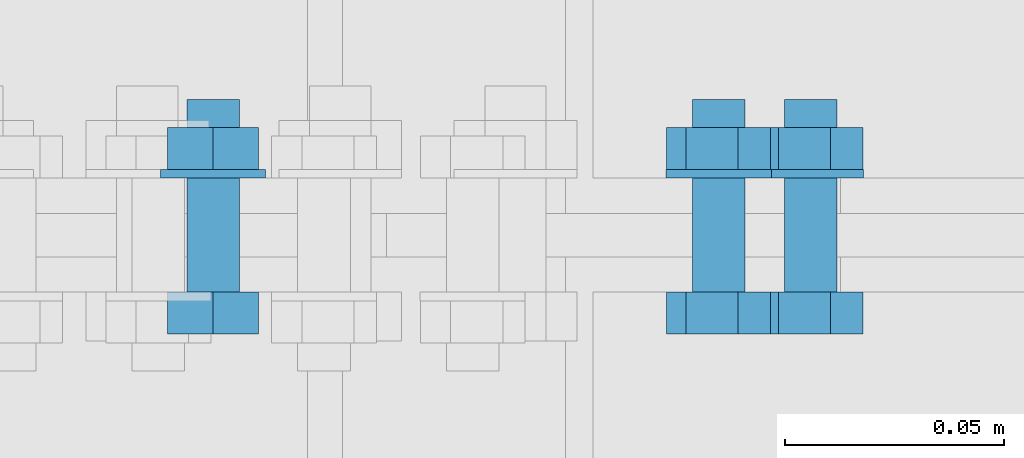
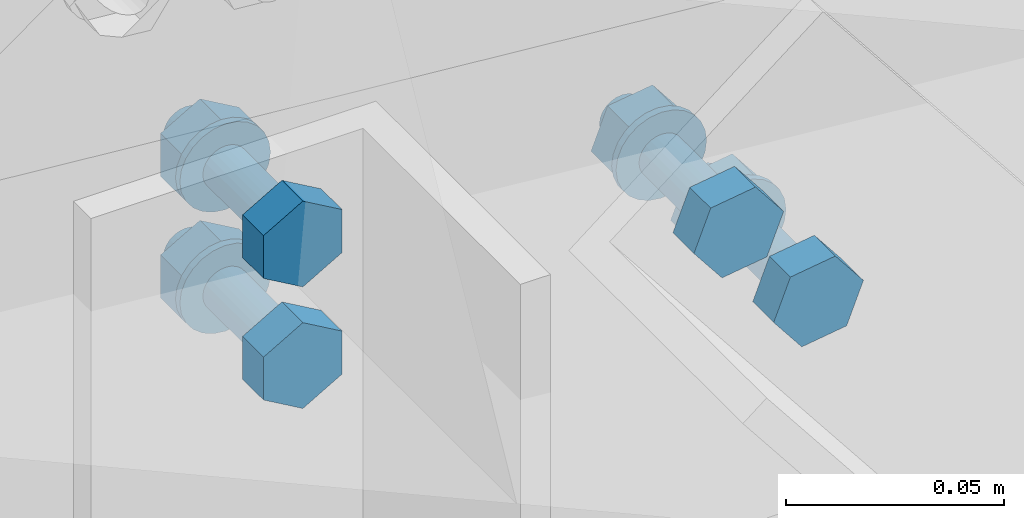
# One storey, part 174 of 251: 16 mechanical fasteners.
"""IFC4 building model written with IfcOpenShell, lengths in metres."""

from ifc_helpers import new_model, si_unit, frame, origin_with_axes, place, context, project, spatial, polyline, outline, extrude, type_object, element, save


model = new_model("IFC4")

# Units and contexts
model_context = context("Model", 3, precision=1e-05, world=origin_with_axes())
ifc_project = project(units=[si_unit("LENGTHUNIT", "METRE"), si_unit("AREAUNIT", "SQUARE_METRE"), si_unit("VOLUMEUNIT", "CUBIC_METRE"), si_unit("MASSUNIT", "GRAM", prefix="KILO"), si_unit("TIMEUNIT", "SECOND"), si_unit("PLANEANGLEUNIT", "RADIAN"), si_unit("SOLIDANGLEUNIT", "STERADIAN"), si_unit("THERMODYNAMICTEMPERATUREUNIT", "DEGREE_CELSIUS")], contexts=[model_context])

# Site, building, storey
placement_1 = place(None, origin_with_axes())
site = spatial("IfcSite", under=ifc_project, at=placement_1, Name="Italia", CompositionType="ELEMENT")
building = spatial("IfcBuilding", under=site, at=placement_1, Name="Deposito", CompositionType="ELEMENT")
storey = spatial("IfcBuildingStorey", under=building, at=placement_1, Name="Storey 0", CompositionType="ELEMENT", Elevation=0.0)

# Mechanical fasteners
mechanical_fastener_type_1 = type_object("IfcMechanicalFastenerType", Name="Reticolare 5", PredefinedType="BOLT")
placement_2 = place(placement_1, origin_with_axes())
mechanical_fastener_1_placement = place(placement_2, origin_with_axes())
element("IfcMechanicalFastener", 1, at=mechanical_fastener_1_placement, inside=storey, type_object=mechanical_fastener_type_1, Name="Reticolare 5", NominalDiameter=0.0120001, context=model_context, shape_type="SweptSolid", body=[
    extrude(outline(polyline([(0.0, 0.0), (0.0, -0.0120001), (-0.0103931, -0.0180001), (-0.0207863, -0.0120001), (-0.0207863, 0.0), (-0.0103931, 0.00600004), (0.0, 0.0)])), frame((17.0148, 14.987, 6.17871), z_axis=(0.0, -1.0, 0.0), x_axis=(1.0, 0.0, 0.0)), (0.0, 0.0, 1.0), 0.00960064),
])
mechanical_fastener_type_2 = type_object("IfcMechanicalFastenerType", Name="Reticolare 5", PredefinedType="BOLT")
mechanical_fastener_2_placement = place(placement_2, origin_with_axes())
element("IfcMechanicalFastener", 2, at=mechanical_fastener_2_placement, inside=storey, type_object=mechanical_fastener_type_2, Name="Reticolare 5", NominalDiameter=0.012, context=model_context, shape_type="SweptSolid", body=[
    extrude(outline(polyline([(0.0, 0.0), (-0.000204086, -0.00155306), (-0.000804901, -0.00299978), (-0.00175858, -0.00424242), (-0.00300026, -0.00519609), (-0.00444794, -0.00579548), (-0.00600052, -0.00600004), (-0.0075531, -0.00579548), (-0.00900078, -0.00519609), (-0.0102425, -0.00424242), (-0.0111961, -0.00299978), (-0.011797, -0.00155306), (-0.012001, 0.0), (-0.011797, 0.00155306), (-0.0111961, 0.00299978), (-0.0102425, 0.00424242), (-0.00900078, 0.00519609), (-0.0075531, 0.00579548), (-0.00600052, 0.00600004), (-0.00444794, 0.00579548), (-0.00300026, 0.00519609), (-0.00175858, 0.00424242), (-0.000804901, 0.00299978), (-0.000204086, 0.00155306), (0.0, 0.0)])), frame((17.0104, 15.031, 6.17271), z_axis=(0.0, -1.0, 0.0), x_axis=(1.0, 0.0, 0.0)), (0.0, 0.0, 1.0), 0.0439997),
])
mechanical_fastener_type_3 = type_object("IfcMechanicalFastenerType", Name="Reticolare 5", PredefinedType="BOLT")
mechanical_fastener_3_placement = place(placement_2, origin_with_axes())
element("IfcMechanicalFastener", 3, at=mechanical_fastener_3_placement, inside=storey, type_object=mechanical_fastener_type_3, Name="Reticolare 5", NominalDiameter=0.0120001, context=model_context, shape_type="SweptSolid", body=[
    extrude(outline(polyline([(0.0, 0.0), (0.0, -0.0120001), (-0.0103931, -0.0180001), (-0.0207863, -0.0120001), (-0.0207863, 0.0), (-0.0103931, 0.00600004), (0.0, 0.0)])), frame((17.0148, 15.0246, 6.17871), z_axis=(0.0, -1.0, 0.0), x_axis=(1.0, 0.0, 0.0)), (0.0, 0.0, 1.0), 0.00959969),
])
mechanical_fastener_type_4 = type_object("IfcMechanicalFastenerType", Name="Reticolare 5", PredefinedType="BOLT")
mechanical_fastener_4_placement = place(placement_2, origin_with_axes())
element("IfcMechanicalFastener", 4, at=mechanical_fastener_4_placement, inside=storey, type_object=mechanical_fastener_type_4, Name="Reticolare 5", NominalDiameter=0.024, context=model_context, shape_type="SweptSolid", body=[
    extrude(outline(polyline([(0.0, 0.0), (-0.000408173, -0.00310564), (-0.00160599, -0.00600004), (-0.00351334, -0.00848532), (-0.00599861, -0.0103922), (-0.00889397, -0.011591), (-0.0119991, -0.0120001), (-0.0151043, -0.011591), (-0.0179996, -0.0103922), (-0.0204849, -0.00848532), (-0.0223923, -0.00600004), (-0.0235901, -0.00310564), (-0.0239983, 0.0), (-0.0235901, 0.00310564), (-0.0223923, 0.00600004), (-0.0204849, 0.00848532), (-0.0179996, 0.0103922), (-0.0151043, 0.011591), (-0.0119991, 0.0120001), (-0.00889397, 0.011591), (-0.00599861, 0.0103922), (-0.00351334, 0.00848532), (-0.00160599, 0.00600004), (-0.000408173, 0.00310564), (0.0, 0.0)])), frame((17.0164, 15.015, 6.17271), z_axis=(0.0, -1.0, 0.0), x_axis=(1.0, 0.0, 0.0)), (0.0, 0.0, 1.0), 0.00200081),
])
mechanical_fastener_type_5 = type_object("IfcMechanicalFastenerType", Name="Reticolare 5", PredefinedType="BOLT")
mechanical_fastener_5_placement = place(placement_2, origin_with_axes())
element("IfcMechanicalFastener", 5, at=mechanical_fastener_5_placement, inside=storey, type_object=mechanical_fastener_type_5, Name="Reticolare 5", NominalDiameter=0.0120001, context=model_context, shape_type="SweptSolid", body=[
    extrude(outline(polyline([(0.0, 0.0), (0.0, -0.0120001), (-0.0103931, -0.0180001), (-0.0207863, -0.0120001), (-0.0207863, 0.0), (-0.0103931, 0.00600004), (0.0, 0.0)])), frame((17.0148, 14.987, 6.14471), z_axis=(0.0, -1.0, 0.0), x_axis=(1.0, 0.0, 0.0)), (0.0, 0.0, 1.0), 0.00960064),
])
mechanical_fastener_type_6 = type_object("IfcMechanicalFastenerType", Name="Reticolare 5", PredefinedType="BOLT")
mechanical_fastener_6_placement = place(placement_2, origin_with_axes())
element("IfcMechanicalFastener", 6, at=mechanical_fastener_6_placement, inside=storey, type_object=mechanical_fastener_type_6, Name="Reticolare 5", NominalDiameter=0.012, context=model_context, shape_type="SweptSolid", body=[
    extrude(outline(polyline([(0.0, 0.0), (-0.000204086, -0.00155306), (-0.000804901, -0.00299978), (-0.00175858, -0.00424242), (-0.00300026, -0.00519609), (-0.00444794, -0.00579548), (-0.00600052, -0.00600004), (-0.0075531, -0.00579548), (-0.00900078, -0.00519609), (-0.0102425, -0.00424242), (-0.0111961, -0.00299978), (-0.011797, -0.00155306), (-0.012001, 0.0), (-0.011797, 0.00155306), (-0.0111961, 0.00299978), (-0.0102425, 0.00424242), (-0.00900078, 0.00519609), (-0.0075531, 0.00579548), (-0.00600052, 0.00600004), (-0.00444794, 0.00579548), (-0.00300026, 0.00519609), (-0.00175858, 0.00424242), (-0.000804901, 0.00299978), (-0.000204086, 0.00155306), (0.0, 0.0)])), frame((17.0104, 15.031, 6.13871), z_axis=(0.0, -1.0, 0.0), x_axis=(1.0, 0.0, 0.0)), (0.0, 0.0, 1.0), 0.0439997),
])
mechanical_fastener_type_7 = type_object("IfcMechanicalFastenerType", Name="Reticolare 5", PredefinedType="BOLT")
mechanical_fastener_7_placement = place(placement_2, origin_with_axes())
element("IfcMechanicalFastener", 7, at=mechanical_fastener_7_placement, inside=storey, type_object=mechanical_fastener_type_7, Name="Reticolare 5", NominalDiameter=0.0120001, context=model_context, shape_type="SweptSolid", body=[
    extrude(outline(polyline([(0.0, 0.0), (0.0, -0.0120001), (-0.0103931, -0.0180001), (-0.0207863, -0.0120001), (-0.0207863, 0.0), (-0.0103931, 0.00600004), (0.0, 0.0)])), frame((17.0148, 15.0246, 6.14471), z_axis=(0.0, -1.0, 0.0), x_axis=(1.0, 0.0, 0.0)), (0.0, 0.0, 1.0), 0.00959969),
])
mechanical_fastener_type_8 = type_object("IfcMechanicalFastenerType", Name="Reticolare 5", PredefinedType="BOLT")
mechanical_fastener_8_placement = place(placement_2, origin_with_axes())
element("IfcMechanicalFastener", 8, at=mechanical_fastener_8_placement, inside=storey, type_object=mechanical_fastener_type_8, Name="Reticolare 5", NominalDiameter=0.024, context=model_context, shape_type="SweptSolid", body=[
    extrude(outline(polyline([(0.0, 0.0), (-0.000408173, -0.00310564), (-0.00160599, -0.00600004), (-0.00351334, -0.00848532), (-0.00599861, -0.0103922), (-0.00889397, -0.011591), (-0.0119991, -0.0120001), (-0.0151043, -0.011591), (-0.0179996, -0.0103922), (-0.0204849, -0.00848532), (-0.0223923, -0.00600004), (-0.0235901, -0.00310564), (-0.0239983, 0.0), (-0.0235901, 0.00310564), (-0.0223923, 0.00600004), (-0.0204849, 0.00848532), (-0.0179996, 0.0103922), (-0.0151043, 0.011591), (-0.0119991, 0.0120001), (-0.00889397, 0.011591), (-0.00599861, 0.0103922), (-0.00351334, 0.00848532), (-0.00160599, 0.00600004), (-0.000408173, 0.00310564), (0.0, 0.0)])), frame((17.0164, 15.015, 6.13871), z_axis=(0.0, -1.0, 0.0), x_axis=(1.0, 0.0, 0.0)), (0.0, 0.0, 1.0), 0.00200081),
])
mechanical_fastener_type_9 = type_object("IfcMechanicalFastenerType", Name="Reticolare 5", PredefinedType="BOLT")
mechanical_fastener_9_placement = place(placement_2, origin_with_axes())
element("IfcMechanicalFastener", 9, at=mechanical_fastener_9_placement, inside=storey, type_object=mechanical_fastener_type_9, Name="Reticolare 5", NominalDiameter=0.0119989, context=model_context, shape_type="SweptSolid", body=[
    extrude(outline(polyline([(0.0, 0.0), (-0.00743866, 0.00941753), (-0.00300026, 0.0205669), (0.00887299, 0.0222993), (0.0163097, 0.0128818), (0.0118732, 0.00173187), (0.0, 0.0)])), frame((17.1153, 14.987, 6.12441), z_axis=(0.0, -1.0, 0.0), x_axis=(1.0, 0.0, 0.0)), (0.0, 0.0, 1.0), 0.00960064),
])
mechanical_fastener_type_10 = type_object("IfcMechanicalFastenerType", Name="Reticolare 5", PredefinedType="BOLT")
mechanical_fastener_10_placement = place(placement_2, origin_with_axes())
element("IfcMechanicalFastener", 10, at=mechanical_fastener_10_placement, inside=storey, type_object=mechanical_fastener_type_10, Name="Reticolare 5", NominalDiameter=0.012, context=model_context, shape_type="SweptSolid", body=[
    extrude(outline(polyline([(0.0, 0.0), (-0.000204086, -0.00155306), (-0.000804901, -0.00299978), (-0.00175858, -0.00424242), (-0.00300026, -0.00519609), (-0.00444794, -0.00579548), (-0.00600052, -0.00600004), (-0.0075531, -0.00579548), (-0.00900078, -0.00519609), (-0.0102425, -0.00424242), (-0.0111961, -0.00299978), (-0.011797, -0.00155306), (-0.012001, 0.0), (-0.011797, 0.00155306), (-0.0111961, 0.00299978), (-0.0102425, 0.00424242), (-0.00900078, 0.00519609), (-0.0075531, 0.00579548), (-0.00600052, 0.00600004), (-0.00444794, 0.00579548), (-0.00300026, 0.00519609), (-0.00175858, 0.00424242), (-0.000804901, 0.00299978), (-0.000204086, 0.00155306), (0.0, 0.0)])), frame((17.1258, 15.031, 6.13556), z_axis=(0.0, -1.0, 0.0), x_axis=(1.0, 0.0, 0.0)), (0.0, 0.0, 1.0), 0.0439997),
])
mechanical_fastener_type_11 = type_object("IfcMechanicalFastenerType", Name="Reticolare 5", PredefinedType="BOLT")
mechanical_fastener_11_placement = place(placement_2, origin_with_axes())
element("IfcMechanicalFastener", 11, at=mechanical_fastener_11_placement, inside=storey, type_object=mechanical_fastener_type_11, Name="Reticolare 5", NominalDiameter=0.0119989, context=model_context, shape_type="SweptSolid", body=[
    extrude(outline(polyline([(0.0, 0.0), (-0.00743866, 0.00941753), (-0.00300026, 0.0205669), (0.00887299, 0.0222993), (0.0163097, 0.0128818), (0.0118732, 0.00173187), (0.0, 0.0)])), frame((17.1153, 15.0246, 6.12441), z_axis=(0.0, -1.0, 0.0), x_axis=(1.0, 0.0, 0.0)), (0.0, 0.0, 1.0), 0.00959969),
])
mechanical_fastener_type_12 = type_object("IfcMechanicalFastenerType", Name="Reticolare 5", PredefinedType="BOLT")
mechanical_fastener_12_placement = place(placement_2, origin_with_axes())
element("IfcMechanicalFastener", 12, at=mechanical_fastener_12_placement, inside=storey, type_object=mechanical_fastener_type_12, Name="Reticolare 5", NominalDiameter=0.024, context=model_context, shape_type="SweptSolid", body=[
    extrude(outline(polyline([(0.0, 0.0), (-0.000408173, -0.00310564), (-0.00160599, -0.00600004), (-0.00351334, -0.00848532), (-0.00599861, -0.0103922), (-0.00889397, -0.011591), (-0.0119991, -0.0120001), (-0.0151043, -0.011591), (-0.0179996, -0.0103922), (-0.0204849, -0.00848532), (-0.0223923, -0.00600004), (-0.0235901, -0.00310564), (-0.0239983, 0.0), (-0.0235901, 0.00310564), (-0.0223923, 0.00600004), (-0.0204849, 0.00848532), (-0.0179996, 0.0103922), (-0.0151043, 0.011591), (-0.0119991, 0.0120001), (-0.00889397, 0.011591), (-0.00599861, 0.0103922), (-0.00351334, 0.00848532), (-0.00160599, 0.00600004), (-0.000408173, 0.00310564), (0.0, 0.0)])), frame((17.1318, 15.015, 6.13556), z_axis=(0.0, -1.0, 0.0), x_axis=(1.0, 0.0, 0.0)), (0.0, 0.0, 1.0), 0.00200081),
])
mechanical_fastener_type_13 = type_object("IfcMechanicalFastenerType", Name="Reticolare 5", PredefinedType="BOLT")
mechanical_fastener_13_placement = place(placement_2, origin_with_axes())
element("IfcMechanicalFastener", 13, at=mechanical_fastener_13_placement, inside=storey, type_object=mechanical_fastener_type_13, Name="Reticolare 5", NominalDiameter=0.0119997, context=model_context, shape_type="SweptSolid", body=[
    extrude(outline(polyline([(0.0, 0.0), (-0.00743675, 0.00941753), (-0.00300026, 0.0205669), (0.00887489, 0.0222988), (0.0163116, 0.0128813), (0.0118752, 0.00173187), (0.0, 0.0)])), frame((17.1364, 14.987, 6.09773), z_axis=(0.0, -1.0, 0.0), x_axis=(1.0, 0.0, 0.0)), (0.0, 0.0, 1.0), 0.00960064),
])
mechanical_fastener_type_14 = type_object("IfcMechanicalFastenerType", Name="Reticolare 5", PredefinedType="BOLT")
mechanical_fastener_14_placement = place(placement_2, origin_with_axes())
element("IfcMechanicalFastener", 14, at=mechanical_fastener_14_placement, inside=storey, type_object=mechanical_fastener_type_14, Name="Reticolare 5", NominalDiameter=0.012, context=model_context, shape_type="SweptSolid", body=[
    extrude(outline(polyline([(0.0, 0.0), (-0.000204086, -0.00155306), (-0.000804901, -0.00299978), (-0.00175858, -0.00424242), (-0.00300026, -0.00519609), (-0.00444794, -0.00579548), (-0.00600052, -0.00600004), (-0.0075531, -0.00579548), (-0.00900078, -0.00519609), (-0.0102425, -0.00424242), (-0.0111961, -0.00299978), (-0.011797, -0.00155306), (-0.012001, 0.0), (-0.011797, 0.00155306), (-0.0111961, 0.00299978), (-0.0102425, 0.00424242), (-0.00900078, 0.00519609), (-0.0075531, 0.00579548), (-0.00600052, 0.00600004), (-0.00444794, 0.00579548), (-0.00300026, 0.00519609), (-0.00175858, 0.00424242), (-0.000804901, 0.00299978), (-0.000204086, 0.00155306), (0.0, 0.0)])), frame((17.1468, 15.031, 6.10888), z_axis=(0.0, -1.0, 0.0), x_axis=(1.0, 0.0, 0.0)), (0.0, 0.0, 1.0), 0.0439997),
])
mechanical_fastener_type_15 = type_object("IfcMechanicalFastenerType", Name="Reticolare 5", PredefinedType="BOLT")
mechanical_fastener_15_placement = place(placement_2, origin_with_axes())
element("IfcMechanicalFastener", 15, at=mechanical_fastener_15_placement, inside=storey, type_object=mechanical_fastener_type_15, Name="Reticolare 5", NominalDiameter=0.0119997, context=model_context, shape_type="SweptSolid", body=[
    extrude(outline(polyline([(0.0, 0.0), (-0.00743675, 0.00941753), (-0.00300026, 0.0205669), (0.00887489, 0.0222988), (0.0163116, 0.0128813), (0.0118752, 0.00173187), (0.0, 0.0)])), frame((17.1364, 15.0246, 6.09773), z_axis=(0.0, -1.0, 0.0), x_axis=(1.0, 0.0, 0.0)), (0.0, 0.0, 1.0), 0.00959969),
])
mechanical_fastener_type_16 = type_object("IfcMechanicalFastenerType", Name="Reticolare 5", PredefinedType="BOLT")
mechanical_fastener_16_placement = place(placement_2, origin_with_axes())
element("IfcMechanicalFastener", 16, at=mechanical_fastener_16_placement, inside=storey, type_object=mechanical_fastener_type_16, Name="Reticolare 5", NominalDiameter=0.024, context=model_context, shape_type="SweptSolid", body=[
    extrude(outline(polyline([(0.0, 0.0), (-0.000408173, -0.00310564), (-0.00160599, -0.00600004), (-0.00351334, -0.00848532), (-0.00599861, -0.0103922), (-0.00889397, -0.011591), (-0.0119991, -0.0120001), (-0.0151043, -0.011591), (-0.0179996, -0.0103922), (-0.0204849, -0.00848532), (-0.0223923, -0.00600004), (-0.0235901, -0.00310564), (-0.0239983, 0.0), (-0.0235901, 0.00310564), (-0.0223923, 0.00600004), (-0.0204849, 0.00848532), (-0.0179996, 0.0103922), (-0.0151043, 0.011591), (-0.0119991, 0.0120001), (-0.00889397, 0.011591), (-0.00599861, 0.0103922), (-0.00351334, 0.00848532), (-0.00160599, 0.00600004), (-0.000408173, 0.00310564), (0.0, 0.0)])), frame((17.1528, 15.015, 6.10888), z_axis=(0.0, -1.0, 0.0), x_axis=(1.0, 0.0, 0.0)), (0.0, 0.0, 1.0), 0.00200081),
])

save(model, "model.ifc")
